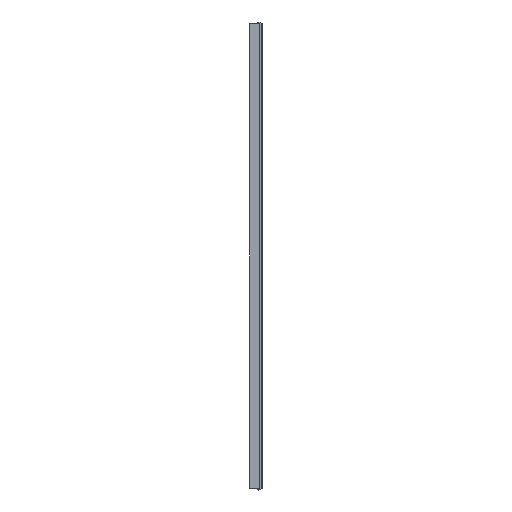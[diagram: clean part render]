
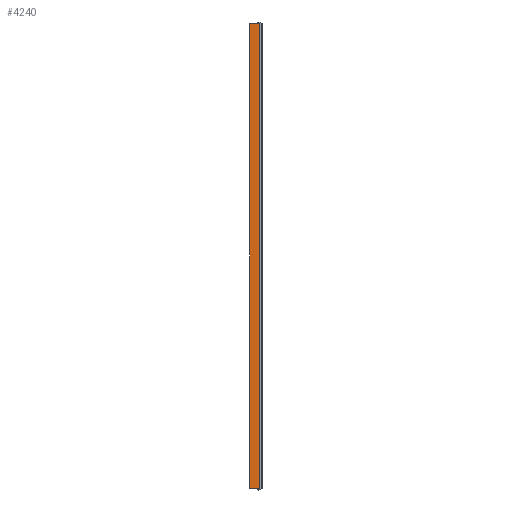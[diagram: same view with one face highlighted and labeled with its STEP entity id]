
A CAD part, left-side view. The second image highlights one B-rep face of the part: STEP entity #4240.
In plain terms, the highlighted planar face has unit normal (-1, 0, 0).
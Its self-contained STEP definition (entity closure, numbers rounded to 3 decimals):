
#227=DIRECTION('',(0.,1.,0.));
#228=VECTOR('',#227,3.3);
#229=CARTESIAN_POINT('',(-19.,13.2,499.5));
#230=LINE('',#229,#228);
#955=DIRECTION('',(0.,0.,-1.));
#956=VECTOR('',#955,999.);
#957=CARTESIAN_POINT('',(-19.,16.5,499.5));
#958=LINE('',#957,#956);
#959=DIRECTION('',(0.,1.,0.));
#960=VECTOR('',#959,3.3);
#961=CARTESIAN_POINT('',(-19.,13.2,-499.5));
#962=LINE('',#961,#960);
#963=DIRECTION('',(0.,0.,1.));
#964=VECTOR('',#963,1.);
#965=CARTESIAN_POINT('',(-19.,13.2,499.5));
#966=LINE('',#965,#964);
#971=DIRECTION('',(0.,0.,1.));
#972=VECTOR('',#971,1001.);
#973=CARTESIAN_POINT('',(-19.,-4.3,-500.5));
#974=LINE('',#973,#972);
#1455=DIRECTION('',(0.,-1.,0.));
#1456=VECTOR('',#1455,17.5);
#1457=CARTESIAN_POINT('',(-19.,13.2,-500.5));
#1458=LINE('',#1457,#1456);
#1459=DIRECTION('',(0.,0.,-1.));
#1460=VECTOR('',#1459,1.);
#1461=CARTESIAN_POINT('',(-19.,13.2,-499.5));
#1462=LINE('',#1461,#1460);
#2317=DIRECTION('',(0.,1.,0.));
#2318=VECTOR('',#2317,17.5);
#2319=CARTESIAN_POINT('',(-19.,-4.3,500.5));
#2320=LINE('',#2319,#2318);
#2391=CARTESIAN_POINT('',(-19.,16.5,-499.5));
#2392=VERTEX_POINT('',#2391);
#2401=CARTESIAN_POINT('',(-19.,16.5,499.5));
#2402=VERTEX_POINT('',#2401);
#2447=CARTESIAN_POINT('',(-19.,13.2,500.5));
#2448=VERTEX_POINT('',#2447);
#2653=CARTESIAN_POINT('',(-19.,-4.3,500.5));
#2655=VERTEX_POINT('',#2653);
#2735=CARTESIAN_POINT('',(-19.,13.2,499.5));
#2737=VERTEX_POINT('',#2735);
#2819=CARTESIAN_POINT('',(-19.,13.2,-500.5));
#2821=VERTEX_POINT('',#2819);
#2825=CARTESIAN_POINT('',(-19.,-4.3,-500.5));
#2826=VERTEX_POINT('',#2825);
#3055=CARTESIAN_POINT('',(-19.,13.2,-499.5));
#3056=VERTEX_POINT('',#3055);
#4220=CARTESIAN_POINT('',(-19.,16.5,-499.5));
#4221=DIRECTION('',(-1.,0.,0.));
#4222=DIRECTION('',(0.,-1.,0.));
#4223=AXIS2_PLACEMENT_3D('',#4220,#4221,#4222);
#4224=PLANE('',#4223);
#4226=ORIENTED_EDGE('',*,*,#4225,.F.);
#4228=ORIENTED_EDGE('',*,*,#4227,.F.);
#4230=ORIENTED_EDGE('',*,*,#4229,.F.);
#4231=ORIENTED_EDGE('',*,*,#3174,.T.);
#4232=ORIENTED_EDGE('',*,*,#4215,.F.);
#4233=ORIENTED_EDGE('',*,*,#3444,.F.);
#4235=ORIENTED_EDGE('',*,*,#4234,.T.);
#4237=ORIENTED_EDGE('',*,*,#4236,.F.);
#4238=EDGE_LOOP('',(#4226,#4228,#4230,#4231,#4232,#4233,#4235,#4237));
#4239=FACE_OUTER_BOUND('',#4238,.F.);
#3174=EDGE_CURVE('',#3056,#2392,#962,.T.);
#3444=EDGE_CURVE('',#2737,#2402,#230,.T.);
#4215=EDGE_CURVE('',#2402,#2392,#958,.T.);
#4225=EDGE_CURVE('',#2826,#2655,#974,.T.);
#4227=EDGE_CURVE('',#2821,#2826,#1458,.T.);
#4229=EDGE_CURVE('',#3056,#2821,#1462,.T.);
#4234=EDGE_CURVE('',#2737,#2448,#966,.T.);
#4236=EDGE_CURVE('',#2655,#2448,#2320,.T.);
#4240=ADVANCED_FACE('',(#4239),#4224,.T.);
